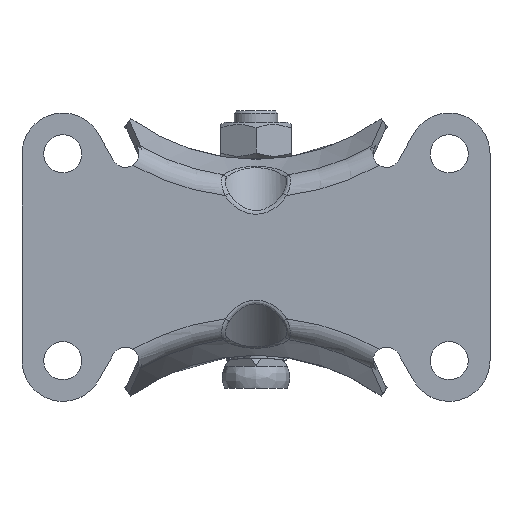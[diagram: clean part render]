
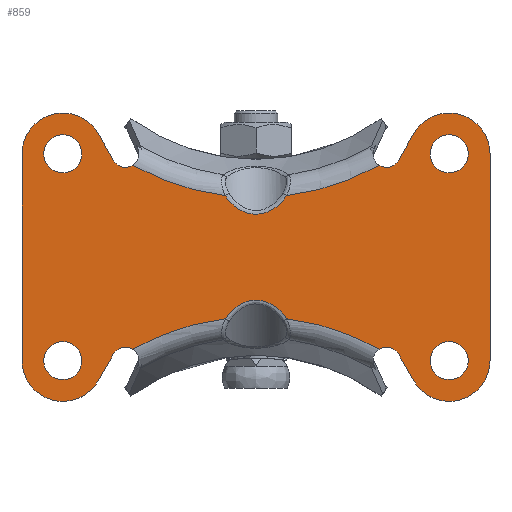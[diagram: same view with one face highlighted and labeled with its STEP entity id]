
A CAD part, top view. The second image highlights one B-rep face of the part: STEP entity #859.
In plain terms, the highlighted planar face has unit normal (0, 0, 1).
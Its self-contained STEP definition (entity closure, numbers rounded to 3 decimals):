
#253=ELLIPSE('',#6209,11.648,8.);
#254=ELLIPSE('',#6215,11.648,8.);
#859=ADVANCED_FACE('',(#1409,#1410,#1411,#1412,#1413),#1189,.F.);
#1189=PLANE('',#6224);
#1409=FACE_BOUND('',#1570,.T.);
#1410=FACE_BOUND('',#1571,.T.);
#1411=FACE_BOUND('',#1572,.T.);
#1412=FACE_BOUND('',#1573,.T.);
#1413=FACE_BOUND('',#1574,.T.);
#1570=EDGE_LOOP('',(#2505,#2506,#2507,#2508,#2509,#2510,#2511,#2512,#2513,
#2514,#2515,#2516,#2517,#2518,#2519,#2520,#2521,#2522,#2523,#2524));
#1571=EDGE_LOOP('',(#2525));
#1572=EDGE_LOOP('',(#2526));
#1573=EDGE_LOOP('',(#2527));
#1574=EDGE_LOOP('',(#2528));
#1975=CIRCLE('',#6139,46.04);
#1978=CIRCLE('',#6143,46.04);
#2009=CIRCLE('',#6208,46.04);
#2010=CIRCLE('',#6210,2.5);
#2011=CIRCLE('',#6211,7.5);
#2012=CIRCLE('',#6212,7.5);
#2013=CIRCLE('',#6213,2.5);
#2014=CIRCLE('',#6214,46.04);
#2015=CIRCLE('',#6216,2.5);
#2016=CIRCLE('',#6217,7.5);
#2017=CIRCLE('',#6218,7.5);
#2018=CIRCLE('',#6219,2.5);
#2019=CIRCLE('',#6220,3.5);
#2020=CIRCLE('',#6221,3.5);
#2021=CIRCLE('',#6222,3.5);
#2022=CIRCLE('',#6223,3.5);
#2505=ORIENTED_EDGE('',*,*,#4785,.T.);
#2506=ORIENTED_EDGE('',*,*,#4786,.T.);
#2507=ORIENTED_EDGE('',*,*,#4674,.T.);
#2508=ORIENTED_EDGE('',*,*,#4787,.F.);
#2509=ORIENTED_EDGE('',*,*,#4788,.F.);
#2510=ORIENTED_EDGE('',*,*,#4789,.F.);
#2511=ORIENTED_EDGE('',*,*,#4790,.F.);
#2512=ORIENTED_EDGE('',*,*,#4791,.F.);
#2513=ORIENTED_EDGE('',*,*,#4792,.F.);
#2514=ORIENTED_EDGE('',*,*,#4793,.F.);
#2515=ORIENTED_EDGE('',*,*,#4794,.T.);
#2516=ORIENTED_EDGE('',*,*,#4795,.T.);
#2517=ORIENTED_EDGE('',*,*,#4681,.T.);
#2518=ORIENTED_EDGE('',*,*,#4796,.F.);
#2519=ORIENTED_EDGE('',*,*,#4797,.F.);
#2520=ORIENTED_EDGE('',*,*,#4798,.F.);
#2521=ORIENTED_EDGE('',*,*,#4799,.F.);
#2522=ORIENTED_EDGE('',*,*,#4800,.F.);
#2523=ORIENTED_EDGE('',*,*,#4801,.F.);
#2524=ORIENTED_EDGE('',*,*,#4802,.F.);
#2525=ORIENTED_EDGE('',*,*,#4803,.T.);
#2526=ORIENTED_EDGE('',*,*,#4804,.T.);
#2527=ORIENTED_EDGE('',*,*,#4805,.T.);
#2528=ORIENTED_EDGE('',*,*,#4806,.T.);
#4074=VERTEX_POINT('',#9260);
#4075=VERTEX_POINT('',#9261);
#4081=VERTEX_POINT('',#9311);
#4082=VERTEX_POINT('',#9312);
#4164=VERTEX_POINT('',#9787);
#4165=VERTEX_POINT('',#9788);
#4166=VERTEX_POINT('',#9791);
#4167=VERTEX_POINT('',#9793);
#4168=VERTEX_POINT('',#9795);
#4169=VERTEX_POINT('',#9797);
#4170=VERTEX_POINT('',#9799);
#4171=VERTEX_POINT('',#9801);
#4172=VERTEX_POINT('',#9803);
#4173=VERTEX_POINT('',#9805);
#4174=VERTEX_POINT('',#9808);
#4175=VERTEX_POINT('',#9810);
#4176=VERTEX_POINT('',#9812);
#4177=VERTEX_POINT('',#9814);
#4178=VERTEX_POINT('',#9816);
#4179=VERTEX_POINT('',#9818);
#4180=VERTEX_POINT('',#9821);
#4181=VERTEX_POINT('',#9823);
#4182=VERTEX_POINT('',#9825);
#4183=VERTEX_POINT('',#9827);
#4674=EDGE_CURVE('',#4074,#4075,#1975,.T.);
#4681=EDGE_CURVE('',#4081,#4082,#1978,.T.);
#4785=EDGE_CURVE('',#4164,#4165,#2009,.T.);
#4786=EDGE_CURVE('',#4165,#4074,#253,.T.);
#4787=EDGE_CURVE('',#4166,#4075,#2010,.T.);
#4788=EDGE_CURVE('',#4167,#4166,#5428,.T.);
#4789=EDGE_CURVE('',#4168,#4167,#2011,.T.);
#4790=EDGE_CURVE('',#4169,#4168,#5429,.T.);
#4791=EDGE_CURVE('',#4170,#4169,#2012,.T.);
#4792=EDGE_CURVE('',#4171,#4170,#5430,.T.);
#4793=EDGE_CURVE('',#4172,#4171,#2013,.T.);
#4794=EDGE_CURVE('',#4172,#4173,#2014,.T.);
#4795=EDGE_CURVE('',#4173,#4081,#254,.T.);
#4796=EDGE_CURVE('',#4174,#4082,#2015,.T.);
#4797=EDGE_CURVE('',#4175,#4174,#5431,.T.);
#4798=EDGE_CURVE('',#4176,#4175,#2016,.T.);
#4799=EDGE_CURVE('',#4177,#4176,#5432,.T.);
#4800=EDGE_CURVE('',#4178,#4177,#2017,.T.);
#4801=EDGE_CURVE('',#4179,#4178,#5433,.T.);
#4802=EDGE_CURVE('',#4164,#4179,#2018,.T.);
#4803=EDGE_CURVE('',#4180,#4180,#2019,.T.);
#4804=EDGE_CURVE('',#4181,#4181,#2020,.T.);
#4805=EDGE_CURVE('',#4182,#4182,#2021,.T.);
#4806=EDGE_CURVE('',#4183,#4183,#2022,.T.);
#5428=LINE('',#9792,#5756);
#5429=LINE('',#9796,#5757);
#5430=LINE('',#9800,#5758);
#5431=LINE('',#9809,#5759);
#5432=LINE('',#9813,#5760);
#5433=LINE('',#9817,#5761);
#5756=VECTOR('',#7201,1.);
#5757=VECTOR('',#7204,1.);
#5758=VECTOR('',#7207,1.);
#5759=VECTOR('',#7216,1.);
#5760=VECTOR('',#7219,1.);
#5761=VECTOR('',#7222,1.);
#6139=AXIS2_PLACEMENT_3D('',#9259,#7027,#7028);
#6143=AXIS2_PLACEMENT_3D('',#9310,#7035,#7036);
#6208=AXIS2_PLACEMENT_3D('',#9786,#7195,#7196);
#6209=AXIS2_PLACEMENT_3D('',#9789,#7197,#7198);
#6210=AXIS2_PLACEMENT_3D('',#9790,#7199,#7200);
#6211=AXIS2_PLACEMENT_3D('',#9794,#7202,#7203);
#6212=AXIS2_PLACEMENT_3D('',#9798,#7205,#7206);
#6213=AXIS2_PLACEMENT_3D('',#9802,#7208,#7209);
#6214=AXIS2_PLACEMENT_3D('',#9804,#7210,#7211);
#6215=AXIS2_PLACEMENT_3D('',#9806,#7212,#7213);
#6216=AXIS2_PLACEMENT_3D('',#9807,#7214,#7215);
#6217=AXIS2_PLACEMENT_3D('',#9811,#7217,#7218);
#6218=AXIS2_PLACEMENT_3D('',#9815,#7220,#7221);
#6219=AXIS2_PLACEMENT_3D('',#9819,#7223,#7224);
#6220=AXIS2_PLACEMENT_3D('',#9820,#7225,#7226);
#6221=AXIS2_PLACEMENT_3D('',#9822,#7227,#7228);
#6222=AXIS2_PLACEMENT_3D('',#9824,#7229,#7230);
#6223=AXIS2_PLACEMENT_3D('',#9826,#7231,#7232);
#6224=AXIS2_PLACEMENT_3D('',#9828,#7233,#7234);
#7027=DIRECTION('',(0.,0.,-1.));
#7028=DIRECTION('',(1.,0.,0.));
#7035=DIRECTION('',(0.,0.,-1.));
#7036=DIRECTION('',(1.,0.,0.));
#7195=DIRECTION('',(0.,0.,-1.));
#7196=DIRECTION('',(1.,0.,0.));
#7197=DIRECTION('',(0.,0.,-1.));
#7198=DIRECTION('',(0.,-1.,0.));
#7199=DIRECTION('',(0.,0.,1.));
#7200=DIRECTION('',(1.,0.,0.));
#7201=DIRECTION('',(-0.494,0.87,0.));
#7202=DIRECTION('',(0.,0.,-1.));
#7203=DIRECTION('',(1.,0.,0.));
#7204=DIRECTION('',(0.,-1.,0.));
#7205=DIRECTION('',(0.,0.,-1.));
#7206=DIRECTION('',(1.,0.,0.));
#7207=DIRECTION('',(0.494,0.87,0.));
#7208=DIRECTION('',(0.,0.,1.));
#7209=DIRECTION('',(1.,0.,0.));
#7210=DIRECTION('',(0.,0.,-1.));
#7211=DIRECTION('',(1.,0.,0.));
#7212=DIRECTION('',(0.,0.,-1.));
#7213=DIRECTION('',(0.,1.,0.));
#7214=DIRECTION('',(0.,0.,1.));
#7215=DIRECTION('',(1.,0.,0.));
#7216=DIRECTION('',(0.494,-0.87,0.));
#7217=DIRECTION('',(0.,0.,-1.));
#7218=DIRECTION('',(1.,0.,0.));
#7219=DIRECTION('',(0.,1.,0.));
#7220=DIRECTION('',(0.,0.,-1.));
#7221=DIRECTION('',(1.,0.,0.));
#7222=DIRECTION('',(-0.494,-0.87,0.));
#7223=DIRECTION('',(0.,0.,1.));
#7224=DIRECTION('',(1.,0.,0.));
#7225=DIRECTION('',(0.,0.,-1.));
#7226=DIRECTION('',(1.,0.,0.));
#7227=DIRECTION('',(0.,0.,-1.));
#7228=DIRECTION('',(1.,0.,0.));
#7229=DIRECTION('',(0.,0.,-1.));
#7230=DIRECTION('',(1.,0.,0.));
#7231=DIRECTION('',(0.,0.,-1.));
#7232=DIRECTION('',(1.,0.,0.));
#7233=DIRECTION('',(0.,0.,-1.));
#7234=DIRECTION('',(1.,0.,0.));
#9259=CARTESIAN_POINT('',(0.,-57.,-6.62));
#9260=CARTESIAN_POINT('',(5.656,-11.309,-6.62));
#9261=CARTESIAN_POINT('',(22.633,-16.907,-6.62));
#9310=CARTESIAN_POINT('',(0.,57.,-6.62));
#9311=CARTESIAN_POINT('',(-5.656,11.309,-6.62));
#9312=CARTESIAN_POINT('',(-22.633,16.907,-6.62));
#9786=CARTESIAN_POINT('',(0.,-57.,-6.62));
#9787=CARTESIAN_POINT('',(-22.633,-16.907,-6.62));
#9788=CARTESIAN_POINT('',(-5.656,-11.309,-6.62));
#9789=CARTESIAN_POINT('',(0.,-19.546,-6.62));
#9790=CARTESIAN_POINT('',(24.,-19.,-6.62));
#9791=CARTESIAN_POINT('',(26.174,-17.765,-6.62));
#9792=CARTESIAN_POINT('',(28.978,-22.704,-6.62));
#9793=CARTESIAN_POINT('',(28.978,-22.704,-6.62));
#9794=CARTESIAN_POINT('',(35.5,-19.,-6.62));
#9795=CARTESIAN_POINT('',(43.,-19.,-6.62));
#9796=CARTESIAN_POINT('',(43.,19.,-6.62));
#9797=CARTESIAN_POINT('',(43.,19.,-6.62));
#9798=CARTESIAN_POINT('',(35.5,19.,-6.62));
#9799=CARTESIAN_POINT('',(28.978,22.704,-6.62));
#9800=CARTESIAN_POINT('',(26.174,17.765,-6.62));
#9801=CARTESIAN_POINT('',(26.174,17.765,-6.62));
#9802=CARTESIAN_POINT('',(24.,19.,-6.62));
#9803=CARTESIAN_POINT('',(22.633,16.907,-6.62));
#9804=CARTESIAN_POINT('',(0.,57.,-6.62));
#9805=CARTESIAN_POINT('',(5.656,11.309,-6.62));
#9806=CARTESIAN_POINT('',(0.,19.546,-6.62));
#9807=CARTESIAN_POINT('',(-24.,19.,-6.62));
#9808=CARTESIAN_POINT('',(-26.174,17.765,-6.62));
#9809=CARTESIAN_POINT('',(-28.978,22.704,-6.62));
#9810=CARTESIAN_POINT('',(-28.978,22.704,-6.62));
#9811=CARTESIAN_POINT('',(-35.5,19.,-6.62));
#9812=CARTESIAN_POINT('',(-43.,19.,-6.62));
#9813=CARTESIAN_POINT('',(-43.,-19.,-6.62));
#9814=CARTESIAN_POINT('',(-43.,-19.,-6.62));
#9815=CARTESIAN_POINT('',(-35.5,-19.,-6.62));
#9816=CARTESIAN_POINT('',(-28.978,-22.704,-6.62));
#9817=CARTESIAN_POINT('',(-26.174,-17.765,-6.62));
#9818=CARTESIAN_POINT('',(-26.174,-17.765,-6.62));
#9819=CARTESIAN_POINT('',(-24.,-19.,-6.62));
#9820=CARTESIAN_POINT('',(-35.5,19.,-6.62));
#9821=CARTESIAN_POINT('',(-32.,19.,-6.62));
#9822=CARTESIAN_POINT('',(-35.5,-19.,-6.62));
#9823=CARTESIAN_POINT('',(-32.,-19.,-6.62));
#9824=CARTESIAN_POINT('',(35.5,19.,-6.62));
#9825=CARTESIAN_POINT('',(39.,19.,-6.62));
#9826=CARTESIAN_POINT('',(35.5,-19.,-6.62));
#9827=CARTESIAN_POINT('',(39.,-19.,-6.62));
#9828=CARTESIAN_POINT('',(-35.5,19.,-6.62));
